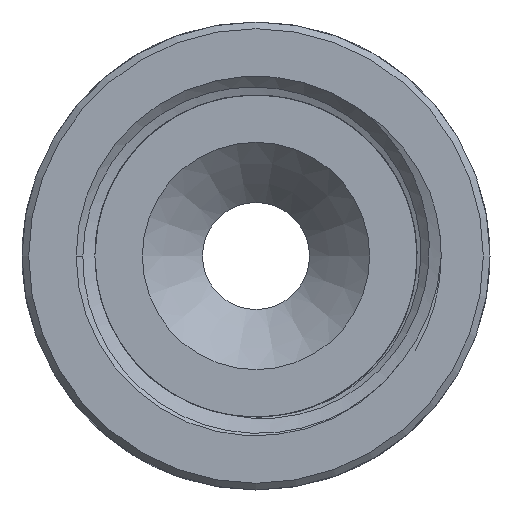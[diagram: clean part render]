
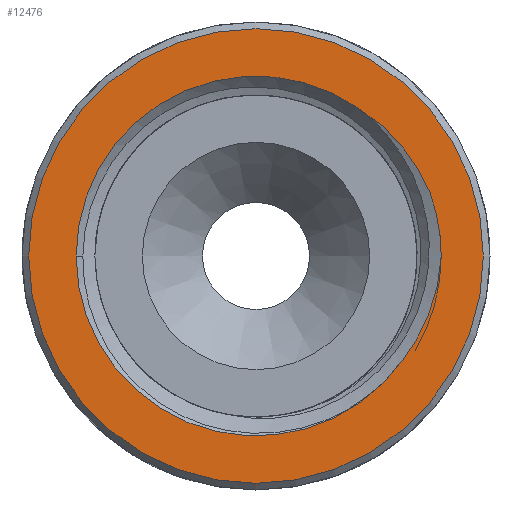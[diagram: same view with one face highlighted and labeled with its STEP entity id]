
A CAD part, left-side view. The second image highlights one B-rep face of the part: STEP entity #12476.
In plain terms, the highlighted planar face has unit normal (-1, 0, 0).
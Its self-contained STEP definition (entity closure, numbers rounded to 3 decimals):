
#460=B_SPLINE_CURVE_WITH_KNOTS('',3,(#16804,#16805,#16806,#16807,#16808,
#16809,#16810,#16811,#16812,#16813,#16814,#16815,#16816,#16817,#16818,#16819,
#16820,#16821,#16822,#16823,#16824,#16825,#16826,#16827,#16828,#16829,#16830,
#16831,#16832,#16833,#16834,#16835,#16836,#16837,#16838,#16839,#16840),
 .UNSPECIFIED.,.F.,.F.,(4,3,3,3,3,3,3,3,3,3,3,3,4),(0.,0.094,
0.189,0.284,0.382,0.475,
0.526,0.536,0.546,0.639,
0.677,0.77,0.851),.UNSPECIFIED.);
#464=B_SPLINE_CURVE_WITH_KNOTS('',3,(#17575,#17576,#17577,#17578,#17579,
#17580,#17581,#17582,#17583,#17584,#17585,#17586,#17587,#17588,#17589,#17590,
#17591,#17592,#17593,#17594,#17595,#17596,#17597,#17598,#17599,#17600,#17601,
#17602,#17603,#17604,#17605,#17606,#17607,#17608,#17609,#17610,#17611,#17612,
#17613,#17614,#17615,#17616,#17617),.UNSPECIFIED.,.F.,.F.,(4,3,3,3,3,3,
3,3,3,3,3,3,3,3,4),(2.778,2.871,2.943,
2.975,2.99,2.998,3.091,3.185,
3.251,3.304,3.316,3.411,3.448,
3.543,3.626),.UNSPECIFIED.);
#1220=FACE_BOUND('',#2880,.T.);
#1408=PLANE('',#13095);
#2144=FACE_OUTER_BOUND('',#2879,.T.);
#2879=EDGE_LOOP('',(#11508,#11509));
#2880=EDGE_LOOP('',(#11510,#11511,#11512,#11513,#11514));
#4481=CIRCLE('',#12558,13.45);
#4485=CIRCLE('',#12577,13.85);
#4486=CIRCLE('',#12582,13.45);
#4733=CIRCLE('',#13096,17.);
#4734=CIRCLE('',#13097,17.);
#4845=VERTEX_POINT('',#15573);
#4847=VERTEX_POINT('',#15576);
#4881=VERTEX_POINT('',#16383);
#4883=VERTEX_POINT('',#16386);
#4884=VERTEX_POINT('',#17574);
#6030=VERTEX_POINT('',#30280);
#6031=VERTEX_POINT('',#30281);
#6133=EDGE_CURVE('',#4845,#4847,#4481,.T.);
#6182=EDGE_CURVE('',#4883,#4881,#4485,.T.);
#6184=EDGE_CURVE('',#4881,#4847,#460,.T.);
#6189=EDGE_CURVE('',#4884,#4883,#464,.T.);
#6194=EDGE_CURVE('',#4884,#4845,#4486,.T.);
#7899=EDGE_CURVE('',#6030,#6031,#4733,.T.);
#7900=EDGE_CURVE('',#6031,#6030,#4734,.T.);
#11508=ORIENTED_EDGE('',*,*,#7899,.T.);
#11509=ORIENTED_EDGE('',*,*,#7900,.T.);
#11510=ORIENTED_EDGE('',*,*,#6184,.T.);
#11511=ORIENTED_EDGE('',*,*,#6133,.F.);
#11512=ORIENTED_EDGE('',*,*,#6194,.F.);
#11513=ORIENTED_EDGE('',*,*,#6189,.T.);
#11514=ORIENTED_EDGE('',*,*,#6182,.T.);
#12476=ADVANCED_FACE('',(#2144,#1220),#1408,.T.);
#12558=AXIS2_PLACEMENT_3D('',#15577,#13277,#13278);
#12577=AXIS2_PLACEMENT_3D('',#16387,#13332,#13333);
#12582=AXIS2_PLACEMENT_3D('',#17846,#13344,#13345);
#13095=AXIS2_PLACEMENT_3D('',#30279,#15097,#15098);
#13096=AXIS2_PLACEMENT_3D('',#30282,#15099,#15100);
#13097=AXIS2_PLACEMENT_3D('',#30283,#15101,#15102);
#13277=DIRECTION('center_axis',(-1.,0.,0.));
#13278=DIRECTION('ref_axis',(0.,0.,1.));
#13332=DIRECTION('center_axis',(1.,0.,0.));
#13333=DIRECTION('ref_axis',(0.,1.,0.));
#13344=DIRECTION('center_axis',(-1.,0.,0.));
#13345=DIRECTION('ref_axis',(0.,0.,1.));
#15097=DIRECTION('center_axis',(-1.,0.,0.));
#15098=DIRECTION('ref_axis',(0.,0.,1.));
#15099=DIRECTION('center_axis',(-1.,0.,0.));
#15100=DIRECTION('ref_axis',(0.,0.,1.));
#15101=DIRECTION('center_axis',(-1.,0.,0.));
#15102=DIRECTION('ref_axis',(0.,0.,1.));
#15573=CARTESIAN_POINT('',(-19.25,13.45,0.));
#15576=CARTESIAN_POINT('',(-19.25,-10.942,-7.821));
#15577=CARTESIAN_POINT('Origin',(-19.25,0.,0.));
#16383=CARTESIAN_POINT('',(-19.25,-13.85,0.));
#16386=CARTESIAN_POINT('',(-19.25,-13.015,4.737));
#16387=CARTESIAN_POINT('Origin',(-19.25,0.,0.));
#16804=CARTESIAN_POINT('Ctrl Pts',(-19.25,-13.85,0.));
#16805=CARTESIAN_POINT('Ctrl Pts',(-19.25,-13.835,-0.313));
#16806=CARTESIAN_POINT('Ctrl Pts',(-19.25,-13.81,-0.624));
#16807=CARTESIAN_POINT('Ctrl Pts',(-19.25,-13.774,-0.934));
#16808=CARTESIAN_POINT('Ctrl Pts',(-19.25,-13.738,-1.247));
#16809=CARTESIAN_POINT('Ctrl Pts',(-19.25,-13.691,-1.558));
#16810=CARTESIAN_POINT('Ctrl Pts',(-19.25,-13.634,-1.867));
#16811=CARTESIAN_POINT('Ctrl Pts',(-19.25,-13.576,-2.177));
#16812=CARTESIAN_POINT('Ctrl Pts',(-19.25,-13.508,-2.485));
#16813=CARTESIAN_POINT('Ctrl Pts',(-19.25,-13.429,-2.79));
#16814=CARTESIAN_POINT('Ctrl Pts',(-19.25,-13.348,-3.106));
#16815=CARTESIAN_POINT('Ctrl Pts',(-19.25,-13.256,-3.419));
#16816=CARTESIAN_POINT('Ctrl Pts',(-19.25,-13.152,-3.728));
#16817=CARTESIAN_POINT('Ctrl Pts',(-19.25,-13.054,-4.022));
#16818=CARTESIAN_POINT('Ctrl Pts',(-19.25,-12.946,-4.312));
#16819=CARTESIAN_POINT('Ctrl Pts',(-19.25,-12.828,-4.599));
#16820=CARTESIAN_POINT('Ctrl Pts',(-19.25,-12.764,-4.754));
#16821=CARTESIAN_POINT('Ctrl Pts',(-19.25,-12.697,-4.908));
#16822=CARTESIAN_POINT('Ctrl Pts',(-19.25,-12.628,-5.061));
#16823=CARTESIAN_POINT('Ctrl Pts',(-19.25,-12.614,-5.091));
#16824=CARTESIAN_POINT('Ctrl Pts',(-19.25,-12.6,-5.121));
#16825=CARTESIAN_POINT('Ctrl Pts',(-19.25,-12.586,-5.152));
#16826=CARTESIAN_POINT('Ctrl Pts',(-19.25,-12.572,-5.182));
#16827=CARTESIAN_POINT('Ctrl Pts',(-19.25,-12.558,-5.212));
#16828=CARTESIAN_POINT('Ctrl Pts',(-19.25,-12.544,-5.242));
#16829=CARTESIAN_POINT('Ctrl Pts',(-19.25,-12.411,-5.523));
#16830=CARTESIAN_POINT('Ctrl Pts',(-19.25,-12.268,-5.799));
#16831=CARTESIAN_POINT('Ctrl Pts',(-19.25,-12.116,-6.07));
#16832=CARTESIAN_POINT('Ctrl Pts',(-19.25,-12.055,-6.179));
#16833=CARTESIAN_POINT('Ctrl Pts',(-19.25,-11.992,-6.288));
#16834=CARTESIAN_POINT('Ctrl Pts',(-19.25,-11.927,-6.395));
#16835=CARTESIAN_POINT('Ctrl Pts',(-19.25,-11.768,-6.662));
#16836=CARTESIAN_POINT('Ctrl Pts',(-19.25,-11.599,-6.922));
#16837=CARTESIAN_POINT('Ctrl Pts',(-19.25,-11.422,-7.176));
#16838=CARTESIAN_POINT('Ctrl Pts',(-19.25,-11.268,-7.396));
#16839=CARTESIAN_POINT('Ctrl Pts',(-19.25,-11.109,-7.611));
#16840=CARTESIAN_POINT('Ctrl Pts',(-19.25,-10.942,-7.821));
#17574=CARTESIAN_POINT('',(-19.25,-7.607,11.092));
#17575=CARTESIAN_POINT('Ctrl Pts',(-19.25,-7.607,11.092));
#17576=CARTESIAN_POINT('Ctrl Pts',(-19.25,-7.87,10.929));
#17577=CARTESIAN_POINT('Ctrl Pts',(-19.25,-8.128,10.758));
#17578=CARTESIAN_POINT('Ctrl Pts',(-19.25,-8.379,10.577));
#17579=CARTESIAN_POINT('Ctrl Pts',(-19.25,-8.574,10.437));
#17580=CARTESIAN_POINT('Ctrl Pts',(-19.25,-8.766,10.291));
#17581=CARTESIAN_POINT('Ctrl Pts',(-19.25,-8.953,10.141));
#17582=CARTESIAN_POINT('Ctrl Pts',(-19.25,-9.035,10.075));
#17583=CARTESIAN_POINT('Ctrl Pts',(-19.25,-9.117,10.008));
#17584=CARTESIAN_POINT('Ctrl Pts',(-19.25,-9.197,9.94));
#17585=CARTESIAN_POINT('Ctrl Pts',(-19.25,-9.235,9.909));
#17586=CARTESIAN_POINT('Ctrl Pts',(-19.25,-9.272,9.877));
#17587=CARTESIAN_POINT('Ctrl Pts',(-19.25,-9.309,9.845));
#17588=CARTESIAN_POINT('Ctrl Pts',(-19.25,-9.33,9.827));
#17589=CARTESIAN_POINT('Ctrl Pts',(-19.25,-9.351,9.809));
#17590=CARTESIAN_POINT('Ctrl Pts',(-19.25,-9.371,9.791));
#17591=CARTESIAN_POINT('Ctrl Pts',(-19.25,-9.607,9.586));
#17592=CARTESIAN_POINT('Ctrl Pts',(-19.25,-9.835,9.373));
#17593=CARTESIAN_POINT('Ctrl Pts',(-19.25,-10.056,9.152));
#17594=CARTESIAN_POINT('Ctrl Pts',(-19.25,-10.278,8.93));
#17595=CARTESIAN_POINT('Ctrl Pts',(-19.25,-10.493,8.701));
#17596=CARTESIAN_POINT('Ctrl Pts',(-19.25,-10.699,8.464));
#17597=CARTESIAN_POINT('Ctrl Pts',(-19.25,-10.843,8.299));
#17598=CARTESIAN_POINT('Ctrl Pts',(-19.25,-10.983,8.13));
#17599=CARTESIAN_POINT('Ctrl Pts',(-19.25,-11.119,7.958));
#17600=CARTESIAN_POINT('Ctrl Pts',(-19.25,-11.229,7.82));
#17601=CARTESIAN_POINT('Ctrl Pts',(-19.25,-11.336,7.679));
#17602=CARTESIAN_POINT('Ctrl Pts',(-19.25,-11.441,7.536));
#17603=CARTESIAN_POINT('Ctrl Pts',(-19.25,-11.464,7.503));
#17604=CARTESIAN_POINT('Ctrl Pts',(-19.25,-11.488,7.471));
#17605=CARTESIAN_POINT('Ctrl Pts',(-19.25,-11.511,7.438));
#17606=CARTESIAN_POINT('Ctrl Pts',(-19.25,-11.696,7.18));
#17607=CARTESIAN_POINT('Ctrl Pts',(-19.25,-11.872,6.916));
#17608=CARTESIAN_POINT('Ctrl Pts',(-19.25,-12.038,6.647));
#17609=CARTESIAN_POINT('Ctrl Pts',(-19.25,-12.102,6.542));
#17610=CARTESIAN_POINT('Ctrl Pts',(-19.25,-12.166,6.435));
#17611=CARTESIAN_POINT('Ctrl Pts',(-19.25,-12.228,6.329));
#17612=CARTESIAN_POINT('Ctrl Pts',(-19.25,-12.385,6.056));
#17613=CARTESIAN_POINT('Ctrl Pts',(-19.25,-12.534,5.778));
#17614=CARTESIAN_POINT('Ctrl Pts',(-19.25,-12.672,5.495));
#17615=CARTESIAN_POINT('Ctrl Pts',(-19.25,-12.794,5.246));
#17616=CARTESIAN_POINT('Ctrl Pts',(-19.25,-12.908,4.993));
#17617=CARTESIAN_POINT('Ctrl Pts',(-19.25,-13.014,4.737));
#17846=CARTESIAN_POINT('Origin',(-19.25,0.,0.));
#30279=CARTESIAN_POINT('Origin',(-19.25,-13.45,0.));
#30280=CARTESIAN_POINT('',(-19.25,-17.,0.));
#30281=CARTESIAN_POINT('',(-19.25,17.,0.));
#30282=CARTESIAN_POINT('Origin',(-19.25,0.,0.));
#30283=CARTESIAN_POINT('Origin',(-19.25,0.,0.));
